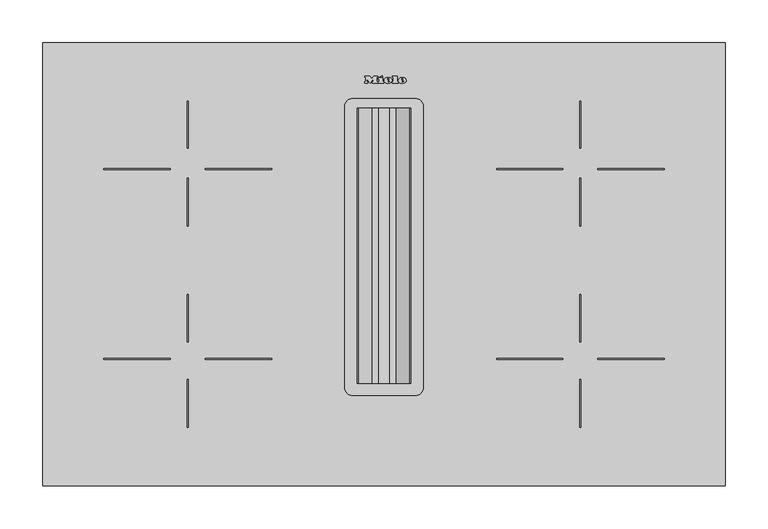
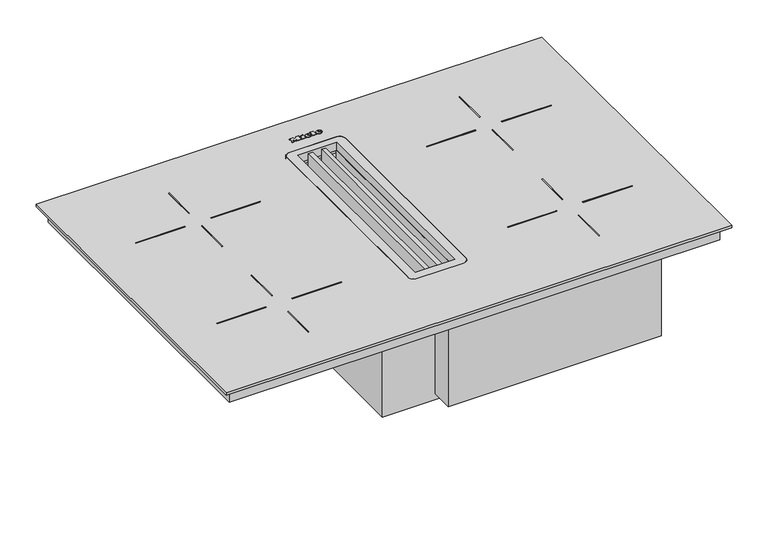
"""IFC4 building model written with IfcOpenShell, lengths in millimetres: proxy geometry, 12904850_BNI_KMDA7272-1FL : 26727275_BNI_12904850_KMDA7272-1FL."""

import ifcopenshell
import ifcopenshell.guid

model = None  # the IFC model being written
_history = None  # IfcOwnerHistory: only IFC2X3 demands one
_inside = {}  # id of a spatial element -> (the spatial element, [elements in it])
_under = {}  # id of a project, library or spatial element -> (it, [spatial elements below it])
_declared = {}  # id of a project -> (the project, [libraries it declares])
_typed = {}  # id of a type object -> (the type object, [elements of that type])
_made_of = {}  # id of a material, layer set ... -> (it, [elements and type objects made of it])


def new_model(schema):
    """Start an empty IFC model of exactly this schema.

    Asked for "IFC4X3", IfcOpenShell would pick the latest addendum, in which some entities
    have other attributes; the version numbers below select the first issue.
    IFC2X3 requires an IfcOwnerHistory on every rooted entity: one is made here for all.
    """
    global model, _history
    if schema == "IFC4X3":
        model = ifcopenshell.file(schema_version=(4, 3, 0, 0))
    else:
        model = ifcopenshell.file(schema=schema)
    _inside.clear()
    _under.clear()
    _declared.clear()
    _typed.clear()
    _made_of.clear()
    _history = None
    if model.schema == "IFC2X3":
        org = make("IfcOrganization", Name="unknown")
        user = make(
            "IfcPersonAndOrganization",
            ThePerson=make("IfcPerson", FamilyName="unknown"),
            TheOrganization=org,
        )
        app = make(
            "IfcApplication",
            ApplicationDeveloper=org,
            Version="unknown",
            ApplicationFullName="unknown",
            ApplicationIdentifier="unknown",
        )
        _history = make(
            "IfcOwnerHistory",
            OwningUser=user,
            OwningApplication=app,
            ChangeAction="ADDED",
            CreationDate=0,
        )
    return model


def make(cls, **values):
    """One entity of the class cls with the attributes given. An attribute that is None is left unset."""
    return model.create_entity(
        cls, **{name: value for name, value in values.items() if value is not None}
    )


def rooted(cls, **values):
    """An entity with a GlobalId (a new one), such as an element, a storey or a relation."""
    return make(cls, GlobalId=ifcopenshell.guid.new(), OwnerHistory=_history, **values)


def si_unit(unit_type, name, prefix=None):
    """IfcSIUnit, for example si_unit("LENGTHUNIT", "METRE", prefix="MILLI")."""
    return make("IfcSIUnit", UnitType=unit_type, Prefix=prefix, Name=name)


def assignment(units):
    """IfcUnitAssignment: the units of a project."""
    return None if units is None else make("IfcUnitAssignment", Units=units)


def point(xyz):
    """IfcCartesianPoint."""
    return None if xyz is None else make("IfcCartesianPoint", Coordinates=xyz)


def direction(xyz):
    """IfcDirection."""
    return None if xyz is None else make("IfcDirection", DirectionRatios=xyz)


def frame(location, z_axis=None, x_axis=None):
    """IfcAxis2Placement3D, a coordinate frame: its origin and axes. An axis left out is left unset."""
    return make(
        "IfcAxis2Placement3D",
        Location=point(location),
        Axis=direction(z_axis),
        RefDirection=direction(x_axis),
    )


def frame_2d(location, x_axis=None):
    """IfcAxis2Placement2D, a coordinate frame in the plane: its origin and x axis."""
    return make(
        "IfcAxis2Placement2D", Location=point(location), RefDirection=direction(x_axis)
    )


def origin():
    """The frame at (0, 0, 0) with its axes left unset."""
    return frame((0.0, 0.0, 0.0))


def origin_with_axes():
    """The frame at (0, 0, 0) with the z axis (0, 0, 1) and the x axis (1, 0, 0) written out."""
    return frame((0.0, 0.0, 0.0), z_axis=(0.0, 0.0, 1.0), x_axis=(1.0, 0.0, 0.0))


def place(relative_to, where):
    """IfcLocalPlacement: puts the frame where relative to a parent placement (None: the world)."""
    return make(
        "IfcLocalPlacement", PlacementRelTo=relative_to, RelativePlacement=where
    )


def context(
    kind, dimensions, precision=None, world=None, true_north=None, identifier=None
):
    """IfcGeometricRepresentationContext, for example the 3D "Model" context."""
    return make(
        "IfcGeometricRepresentationContext",
        ContextIdentifier=identifier,
        ContextType=kind,
        CoordinateSpaceDimension=dimensions,
        Precision=precision,
        WorldCoordinateSystem=world,
        TrueNorth=true_north,
    )


def project(units=None, contexts=None):
    """IfcProject with its units and contexts."""
    return rooted(
        "IfcProject",
        Name="project",
        RepresentationContexts=contexts,
        UnitsInContext=assignment(units),
    )


def spatial(cls, under=None, at=None, **own):
    """A site, building, storey or space (cls), placed at a placement, below another one or the project."""
    s = rooted(cls, ObjectPlacement=at, **own)
    if under is not None:
        _under.setdefault(under.id(), (under, []))[1].append(s)
    return s


def polyline(points):
    """IfcPolyline through the points."""
    return make("IfcPolyline", Points=[point(p) for p in points])


def circle_curve(where, radius):
    """IfcCircle in the frame where."""
    return make("IfcCircle", Position=where, Radius=radius)


def ellipse_curve(where, semi_axis1, semi_axis2):
    """IfcEllipse in the frame where."""
    return make(
        "IfcEllipse", Position=where, SemiAxis1=semi_axis1, SemiAxis2=semi_axis2
    )


def trimmed(basis, trim1, trim2, sense, master):
    """IfcTrimmedCurve: the piece of a basis curve between two trims."""
    return make(
        "IfcTrimmedCurve",
        BasisCurve=basis,
        Trim1=trim1,
        Trim2=trim2,
        SenseAgreement=sense,
        MasterRepresentation=master,
    )


def segment(curve, same_sense, transition):
    """IfcCompositeCurveSegment."""
    return make(
        "IfcCompositeCurveSegment",
        Transition=transition,
        SameSense=same_sense,
        ParentCurve=curve,
    )


def composite_curve(segments, self_intersect=None):
    """IfcCompositeCurve: segments joined end to end."""
    return make("IfcCompositeCurve", Segments=segments, SelfIntersect=self_intersect)


def outline(outer, holes=None, kind="AREA"):
    """IfcArbitraryClosedProfileDef: a profile drawn as a closed curve; with holes, ...WithVoids."""
    if holes is None:
        return make("IfcArbitraryClosedProfileDef", ProfileType=kind, OuterCurve=outer)
    return make(
        "IfcArbitraryProfileDefWithVoids",
        ProfileType=kind,
        OuterCurve=outer,
        InnerCurves=holes,
    )


def extrude(swept, where, along, depth):
    """IfcExtrudedAreaSolid: the profile swept, set in the frame where, extruded along a direction by depth."""
    return make(
        "IfcExtrudedAreaSolid",
        SweptArea=swept,
        Position=where,
        ExtrudedDirection=direction(along),
        Depth=depth,
    )


def faces_of(points, faces, orient=None, outer=None):
    """IfcFace entities. A face is a list of loops; a loop is a list of indices into points, from 0.

    orient and outer hold one flag for each loop. By default every Orientation is true, the
    first loop of a face is its IfcFaceOuterBound and the others are IfcFaceBound.
    """
    made = []
    for i, loops in enumerate(faces):
        bounds = []
        for j, loop in enumerate(loops):
            is_outer = j == 0 if outer is None else outer[i][j]
            bounds.append(
                make(
                    "IfcFaceOuterBound" if is_outer else "IfcFaceBound",
                    Bound=make("IfcPolyLoop", Polygon=[points[k] for k in loop]),
                    Orientation=True if orient is None else orient[i][j],
                )
            )
        made.append(make("IfcFace", Bounds=bounds))
    return made


def faceted_brep(points, faces, orient=None, outer=None, voids=None):
    """IfcFacetedBrep: a solid bounded by flat faces; with voids (closed shells), ...WithVoids."""
    shared = [point(p) for p in points]
    hull = make("IfcClosedShell", CfsFaces=faces_of(shared, faces, orient, outer))
    if voids is None:
        return make("IfcFacetedBrep", Outer=hull)
    return make(
        "IfcFacetedBrepWithVoids",
        Outer=hull,
        Voids=[
            make(cls, CfsFaces=faces_of(shared, fs, o, b)) for cls, fs, o, b in voids
        ],
    )


def shape(context_of_items, identifier, shape_type, items):
    """IfcShapeRepresentation: the items that make up one representation, for example the "Body"."""
    return make(
        "IfcShapeRepresentation",
        ContextOfItems=context_of_items,
        RepresentationIdentifier=identifier,
        RepresentationType=shape_type,
        Items=items,
    )


def source(mapping_origin, context_of_items, identifier, shape_type, items):
    """IfcRepresentationMap: a shape defined once, which mapped items show again and again."""
    return make(
        "IfcRepresentationMap",
        MappingOrigin=mapping_origin,
        MappedRepresentation=shape(context_of_items, identifier, shape_type, items),
    )


def transform(
    local_origin,
    x_axis=None,
    y_axis=None,
    z_axis=None,
    scale=None,
    scale2=None,
    scale3=None,
    uniform=True,
):
    """IfcCartesianTransformationOperator3D, or its non-uniform kind. x_axis, y_axis, z_axis: its Axis1, 2, 3."""
    if uniform:
        return make(
            "IfcCartesianTransformationOperator3D",
            Axis1=direction(x_axis),
            Axis2=direction(y_axis),
            LocalOrigin=point(local_origin),
            Scale=scale,
            Axis3=direction(z_axis),
        )
    return make(
        "IfcCartesianTransformationOperator3DnonUniform",
        Axis1=direction(x_axis),
        Axis2=direction(y_axis),
        LocalOrigin=point(local_origin),
        Scale=scale,
        Axis3=direction(z_axis),
        Scale2=scale2,
        Scale3=scale3,
    )


def mapped(mapping_source, mapping_target):
    """IfcMappedItem: shows the shape of a source again, moved by a transform."""
    return make(
        "IfcMappedItem", MappingSource=mapping_source, MappingTarget=mapping_target
    )


def made_of(thing, what):
    """Note that an element or type object is made of a material, layer set ...; save() writes the relation."""
    if what is not None:
        _made_of.setdefault(what.id(), (what, []))[1].append(thing)
    return thing


def element(
    cls,
    number,
    at=None,
    inside=None,
    cuts=None,
    type_object=None,
    material=None,
    context=None,
    identifier="Body",
    shape_type=None,
    held_by="IfcProductDefinitionShape",
    body=None,
    shapes=None,
    **own,
):
    """One element of the class cls, such as IfcWall. Its Tag is "e" and its number.

    at: its placement. inside: the storey or other place that contains it. cuts: it is an
    opening in that element (IfcRelVoidsElement). A single representation is given by context,
    identifier, shape_type and body (its items); several are given by shapes. held_by: the class
    of the entity that holds the representations. save() writes the other relations.
    """
    e = rooted(cls, Tag="e%d" % number, ObjectPlacement=at, **own)
    if body is not None:
        shapes = [shape(context, identifier, shape_type, body)]
    if shapes is not None:
        e.Representation = make(held_by, Representations=shapes)
    if inside is not None:
        _inside.setdefault(inside.id(), (inside, []))[1].append(e)
    if cuts is not None:
        rooted(
            "IfcRelVoidsElement", RelatingBuildingElement=cuts, RelatedOpeningElement=e
        )
    if type_object is not None:
        _typed.setdefault(type_object.id(), (type_object, []))[1].append(e)
    return made_of(e, material)


def aggregate(whole, parts):
    """IfcRelAggregates: a whole, such as a stair, and the parts it consists of."""
    return rooted("IfcRelAggregates", RelatingObject=whole, RelatedObjects=parts)


def save(model, path):
    """Write the relations noted so far, then the file.

    IfcRelAggregates (storeys below a building ...), IfcRelContainedInSpatialStructure (elements
    in a storey), IfcRelDefinesByType, IfcRelAssociatesMaterial and IfcRelDeclares: one each for
    every whole, place, type object, material and project.
    """
    for whole, parts in _under.values():
        aggregate(whole, parts)
    for where, things in _inside.values():
        rooted(
            "IfcRelContainedInSpatialStructure",
            RelatedElements=things,
            RelatingStructure=where,
        )
    for kind, things in _typed.values():
        rooted("IfcRelDefinesByType", RelatedObjects=things, RelatingType=kind)
    for what, things in _made_of.values():
        rooted("IfcRelAssociatesMaterial", RelatedObjects=things, RelatingMaterial=what)
    for by, libraries in _declared.values():
        rooted("IfcRelDeclares", RelatingContext=by, RelatedDefinitions=libraries)
    model.write(path)


def plane_surface(at):
    """IfcPlane: the flat surface through the origin of the frame at, square to its z axis."""
    return make("IfcPlane", Position=at)


def cylinder_surface(at, radius):
    """IfcCylindricalSurface: all points at the distance radius from the z axis of the frame at."""
    return make("IfcCylindricalSurface", Position=at, Radius=radius)


def revolved_surface(curve, axis_point, axis_direction):
    """IfcSurfaceOfRevolution: the curve turned about the line through axis_point along axis_direction."""
    return make(
        "IfcSurfaceOfRevolution",
        SweptCurve=make("IfcArbitraryOpenProfileDef", ProfileType="CURVE", Curve=curve),
        AxisPosition=make("IfcAxis1Placement", Location=point(axis_point), Axis=direction(axis_direction)),
    )


def extruded_surface(curve, direction_of_extrusion, depth):
    """IfcSurfaceOfLinearExtrusion: the curve pushed along a direction by depth."""
    return make(
        "IfcSurfaceOfLinearExtrusion",
        SweptCurve=make("IfcArbitraryOpenProfileDef", ProfileType="CURVE", Curve=curve),
        ExtrudedDirection=direction(direction_of_extrusion),
        Depth=depth,
    )


def advanced_brep(points, edges, surfaces, faces):
    """IfcAdvancedBrep: a solid bounded by faces that lie on surfaces and meet in shared edges.

    An edge is (start, end): straight between two places in points (the first is 0);
    or (start, end, curve); or (start, end, curve, False) where it runs against its curve.
    A face is (place in surfaces, loops), or (place, loops, False) where it looks against
    its surface's normal. A loop lists edges by number (the first is 1), with a minus sign
    where the edge is run from its end to its start. The first loop is the outer one.
    """
    corners = [point(p) for p in points]
    vertices = [make("IfcVertexPoint", VertexGeometry=c) for c in corners]
    made = []
    for start, end, *more in edges:
        made.append(
            make(
                "IfcEdgeCurve",
                EdgeStart=vertices[start],
                EdgeEnd=vertices[end],
                EdgeGeometry=more[0] if more else make("IfcPolyline", Points=[corners[start], corners[end]]),
                SameSense=more[1] if len(more) > 1 else True,
            )
        )
    hull = []
    for where, loops, *sense in faces:
        bounds = []
        for j, loop in enumerate(loops):
            ring = [make("IfcOrientedEdge", EdgeElement=made[abs(k) - 1], Orientation=k > 0) for k in loop]
            bounds.append(
                make(
                    "IfcFaceOuterBound" if j == 0 else "IfcFaceBound",
                    Bound=make("IfcEdgeLoop", EdgeList=ring),
                    Orientation=True,
                )
            )
        hull.append(make("IfcAdvancedFace", Bounds=bounds, FaceSurface=surfaces[where], SameSense=sense[0] if sense else True))
    return make("IfcAdvancedBrep", Outer=make("IfcClosedShell", CfsFaces=hull))


def specialty_equipment_1488fc75(model_context):
    return source(origin(), model_context, "Body", "SolidModel", [
        advanced_brep(
        [(20.8243124, 474.5406203, 5.0), (20.8243124, 475.3486203, 5.0), (26.1763124, 475.3486203, 5.0), (16.8643124, 475.3486203, 5.0), (19.0643124, 472.6446203, 5.0), (26.0403124, 474.5406203, 5.0), (23.6243124, 474.5406203, 5.0), (21.7203124, 473.6446203, 5.0), (20.8243124, 476.3726203, 5.0), (20.8243124, 477.2446203, 5.0), (22.1923124, 477.2446203, 5.0), (22.1923124, 476.3726203, 5.0), (20.8243124, 474.5406203, 4.0), (21.7203124, 473.6446203, 4.0), (23.6243124, 474.5406203, 4.0), (26.0403124, 474.5406203, 4.0), (19.0643124, 472.6446203, 4.0), (16.8643124, 475.3486203, 4.0), (26.1763124, 475.3486203, 4.0), (20.8243124, 475.3486203, 4.0), (20.8243124, 476.3726203, 4.0), (22.1923124, 476.3726203, 4.0), (22.1923124, 477.2446203, 4.0), (20.8243124, 477.2446203, 4.0)],
        [
            (0, 1),
            (1, 2),
            (2, 3, ellipse_curve(frame((21.5203124, 475.3486203, 5.0), z_axis=(0.0, 0.0, 1.0), x_axis=(-1.0, 0.0, 0.0)), 4.656, 3.848)),
            (3, 4, circle_curve(frame((19.960356, 475.6206203, 5.0), z_axis=(0.0, 0.0, 1.0), x_axis=(0.0, -1.0, 0.0)), 3.1079688)),
            (4, 5, circle_curve(frame((21.4271059, 477.7326203, 5.0), z_axis=(0.0, 0.0, 1.0), x_axis=(0.0, -1.0, 0.0)), 5.6098607)),
            (5, 6),
            (6, 7, circle_curve(frame((22.1113712, 475.2846203, 5.0), z_axis=(0.0, 0.0, -1.0), x_axis=(0.0, -1.0, 0.0)), 1.6859795)),
            (7, 0, circle_curve(frame((21.7203124, 474.5406203, 5.0), z_axis=(0.0, 0.0, -1.0), x_axis=(0.0, -1.0, 0.0)), 0.896)),
            (8, 9),
            (9, 10, circle_curve(frame((21.5083124, 477.2446203, 5.0), z_axis=(0.0, 0.0, -1.0), x_axis=(0.0, -1.0, 0.0)), 0.684)),
            (10, 11),
            (11, 8),
            (12, 13, circle_curve(frame((21.7203124, 474.5406203, 4.0), z_axis=(0.0, 0.0, 1.0), x_axis=(0.0, -1.0, 0.0)), 0.896)),
            (13, 14, circle_curve(frame((22.1113712, 475.2846203, 4.0), z_axis=(0.0, 0.0, 1.0), x_axis=(0.0, -1.0, 0.0)), 1.6859795)),
            (14, 15),
            (15, 16, circle_curve(frame((21.4271059, 477.7326203, 4.0), z_axis=(0.0, 0.0, -1.0), x_axis=(0.0, -1.0, 0.0)), 5.6098607)),
            (16, 17, circle_curve(frame((19.960356, 475.6206203, 4.0), z_axis=(0.0, 0.0, -1.0), x_axis=(0.0, -1.0, 0.0)), 3.1079688)),
            (17, 18, ellipse_curve(frame((21.5203124, 475.3486203, 4.0), z_axis=(0.0, 0.0, -1.0), x_axis=(-1.0, 0.0, 0.0)), 4.656, 3.848)),
            (18, 19),
            (19, 12),
            (20, 21),
            (21, 22),
            (22, 23, circle_curve(frame((21.5083124, 477.2446203, 4.0), z_axis=(0.0, 0.0, 1.0), x_axis=(0.0, -1.0, 0.0)), 0.684)),
            (23, 20),
            (0, 12),
            (19, 1),
            (18, 2),
            (5, 15),
            (14, 6),
            (17, 3),
            (13, 7),
            (16, 4),
            (8, 20),
            (23, 9),
            (22, 10),
            (21, 11),
        ],
        [
            plane_surface(frame((20.8243124, 475.3486203, 5.0), z_axis=(0.0, 0.0, 1.0), x_axis=(0.0, 1.0, 0.0))),
            plane_surface(frame((20.8243124, 475.3486203, 4.0), z_axis=(0.0, 0.0, -1.0), x_axis=(0.0, -1.0, 0.0))),
            plane_surface(frame((20.8243124, 474.5406203, 5.0), z_axis=(1.0, 0.0, 0.0), x_axis=(0.0, 0.0, -1.0))),
            plane_surface(frame((20.8243124, 475.3486203, 5.0), z_axis=(0.0, -1.0, 0.0), x_axis=(0.0, 0.0, -1.0))),
            plane_surface(frame((26.0403124, 474.5406203, 5.0), z_axis=(0.0, 1.0, 0.0), x_axis=(0.0, 0.0, -1.0))),
            extruded_surface(trimmed(ellipse_curve(frame((21.5203124, 475.3486203, 3.0), z_axis=(0.0, 0.0, 1.0), x_axis=(-1.0, 0.0, 0.0)), 4.656, 3.848), [point((26.1763124, 475.3486203, 3.0))], [point((16.8643124, 475.3486203, 3.0))], True, "CARTESIAN"), (0.0, 0.0, 1.0), 1.0),
            revolved_surface(polyline([(22.1113712, 473.5986408, 4.0), (22.1113712, 473.5986408, 5.0)]), (22.1113712, 475.2846203, 4.0), (0.0, 0.0, -1.0)),
            revolved_surface(polyline([(21.7203124, 473.6446203, 4.0), (21.7203124, 473.6446203, 5.0)]), (21.7203124, 474.5406203, 4.0), (0.0, 0.0, -1.0)),
            cylinder_surface(frame((19.960356, 475.6206203, 4.0), z_axis=(0.0, 0.0, 1.0), x_axis=(0.0, -1.0, 0.0)), 3.1079688),
            cylinder_surface(frame((21.4271059, 477.7326203, 4.0), z_axis=(0.0, 0.0, 1.0), x_axis=(0.0, -1.0, 0.0)), 5.6098607),
            plane_surface(frame((20.8243124, 476.3726203, 5.0), z_axis=(1.0, 0.0, 0.0), x_axis=(0.0, 0.0, -1.0))),
            revolved_surface(polyline([(21.5083124, 476.5606203, 4.0), (21.5083124, 476.5606203, 5.0)]), (21.5083124, 477.2446203, 4.0), (0.0, 0.0, -1.0)),
            plane_surface(frame((22.1923124, 477.2446203, 5.0), z_axis=(-1.0, 0.0, 0.0), x_axis=(0.0, 0.0, -1.0))),
            plane_surface(frame((22.1923124, 476.3726203, 5.0), z_axis=(0.0, 1.0, 0.0), x_axis=(0.0, 0.0, -1.0))),
        ],
        [
            (0, [[1, 2, 3, 4, 5, 6, 7, 8], [9, 10, 11, 12]]),
            (1, [[13, 14, 15, 16, 17, 18, 19, 20], [21, 22, 23, 24]]),
            (2, [[-1, 25, -20, 26]]),
            (3, [[-2, -26, -19, 27]]),
            (4, [[-6, 28, -15, 29]]),
            (5, [[-3, -27, -18, 30]]),
            (6, [[-7, -29, -14, 31]]),
            (7, [[-8, -31, -13, -25]]),
            (8, [[-4, -30, -17, 32]]),
            (9, [[-5, -32, -16, -28]]),
            (10, [[-9, 33, -24, 34]]),
            (11, [[-10, -34, -23, 35]]),
            (12, [[-11, -35, -22, 36]]),
            (13, [[-12, -36, -21, -33]]),
        ],
    ),
        advanced_brep(
        [(4.1283124, 474.5406203, 5.0), (4.1283124, 475.3486203, 5.0), (9.4803124, 475.3486203, 5.0), (0.1683124, 475.3486203, 5.0), (2.3683124, 472.6446203, 5.0), (9.3443124, 474.5406203, 5.0), (6.9283124, 474.5406203, 5.0), (5.0243124, 473.6446203, 5.0), (4.1283124, 476.3726203, 5.0), (4.1283124, 477.2446203, 5.0), (5.4963124, 477.2446203, 5.0), (5.4963124, 476.3726203, 5.0), (4.1283124, 474.5406203, 4.0), (5.0243124, 473.6446203, 4.0), (6.9283124, 474.5406203, 4.0), (9.3443124, 474.5406203, 4.0), (2.3683124, 472.6446203, 4.0), (0.1683124, 475.3486203, 4.0), (9.4803124, 475.3486203, 4.0), (4.1283124, 475.3486203, 4.0), (4.1283124, 476.3726203, 4.0), (5.4963124, 476.3726203, 4.0), (5.4963124, 477.2446203, 4.0), (4.1283124, 477.2446203, 4.0)],
        [
            (0, 1),
            (1, 2),
            (2, 3, ellipse_curve(frame((4.8243124, 475.3486203, 5.0), z_axis=(0.0, 0.0, 1.0), x_axis=(-1.0, 0.0, 0.0)), 4.656, 3.848)),
            (3, 4, circle_curve(frame((3.264356, 475.6206203, 5.0), z_axis=(0.0, 0.0, 1.0), x_axis=(0.0, -1.0, 0.0)), 3.1079688)),
            (4, 5, circle_curve(frame((4.7311059, 477.7326203, 5.0), z_axis=(0.0, 0.0, 1.0), x_axis=(0.0, -1.0, 0.0)), 5.6098607)),
            (5, 6),
            (6, 7, circle_curve(frame((5.4153712, 475.2846203, 5.0), z_axis=(0.0, 0.0, -1.0), x_axis=(0.0, -1.0, 0.0)), 1.6859795)),
            (7, 0, circle_curve(frame((5.0243124, 474.5406203, 5.0), z_axis=(0.0, 0.0, -1.0), x_axis=(0.0, -1.0, 0.0)), 0.896)),
            (8, 9),
            (9, 10, circle_curve(frame((4.8123124, 477.2446203, 5.0), z_axis=(0.0, 0.0, -1.0), x_axis=(0.0, -1.0, 0.0)), 0.684)),
            (10, 11),
            (11, 8),
            (12, 13, circle_curve(frame((5.0243124, 474.5406203, 4.0), z_axis=(0.0, 0.0, 1.0), x_axis=(0.0, -1.0, 0.0)), 0.896)),
            (13, 14, circle_curve(frame((5.4153712, 475.2846203, 4.0), z_axis=(0.0, 0.0, 1.0), x_axis=(0.0, -1.0, 0.0)), 1.6859795)),
            (14, 15),
            (15, 16, circle_curve(frame((4.7311059, 477.7326203, 4.0), z_axis=(0.0, 0.0, -1.0), x_axis=(0.0, -1.0, 0.0)), 5.6098607)),
            (16, 17, circle_curve(frame((3.264356, 475.6206203, 4.0), z_axis=(0.0, 0.0, -1.0), x_axis=(0.0, -1.0, 0.0)), 3.1079688)),
            (17, 18, ellipse_curve(frame((4.8243124, 475.3486203, 4.0), z_axis=(0.0, 0.0, -1.0), x_axis=(-1.0, 0.0, 0.0)), 4.656, 3.848)),
            (18, 19),
            (19, 12),
            (20, 21),
            (21, 22),
            (22, 23, circle_curve(frame((4.8123124, 477.2446203, 4.0), z_axis=(0.0, 0.0, 1.0), x_axis=(0.0, -1.0, 0.0)), 0.684)),
            (23, 20),
            (0, 12),
            (19, 1),
            (18, 2),
            (5, 15),
            (14, 6),
            (17, 3),
            (13, 7),
            (16, 4),
            (8, 20),
            (23, 9),
            (22, 10),
            (21, 11),
        ],
        [
            plane_surface(frame((4.1283124, 475.3486203, 5.0), z_axis=(0.0, 0.0, 1.0), x_axis=(0.0, 1.0, 0.0))),
            plane_surface(frame((4.1283124, 475.3486203, 4.0), z_axis=(0.0, 0.0, -1.0), x_axis=(0.0, -1.0, 0.0))),
            plane_surface(frame((4.1283124, 474.5406203, 5.0), z_axis=(1.0, 0.0, 0.0), x_axis=(0.0, 0.0, -1.0))),
            plane_surface(frame((4.1283124, 475.3486203, 5.0), z_axis=(0.0, -1.0, 0.0), x_axis=(0.0, 0.0, -1.0))),
            plane_surface(frame((9.3443124, 474.5406203, 5.0), z_axis=(0.0, 1.0, 0.0), x_axis=(0.0, 0.0, -1.0))),
            extruded_surface(trimmed(ellipse_curve(frame((4.8243124, 475.3486203, 3.0), z_axis=(0.0, 0.0, 1.0), x_axis=(-1.0, 0.0, 0.0)), 4.656, 3.848), [point((9.4803124, 475.3486203, 3.0))], [point((0.1683124, 475.3486203, 3.0))], True, "CARTESIAN"), (0.0, 0.0, 1.0), 1.0),
            revolved_surface(polyline([(5.4153712, 473.5986408, 4.0), (5.4153712, 473.5986408, 5.0)]), (5.4153712, 475.2846203, 4.0), (0.0, 0.0, -1.0)),
            revolved_surface(polyline([(5.0243124, 473.6446203, 4.0), (5.0243124, 473.6446203, 5.0)]), (5.0243124, 474.5406203, 4.0), (0.0, 0.0, -1.0)),
            cylinder_surface(frame((3.264356, 475.6206203, 4.0), z_axis=(0.0, 0.0, 1.0), x_axis=(0.0, -1.0, 0.0)), 3.1079688),
            cylinder_surface(frame((4.7311059, 477.7326203, 4.0), z_axis=(0.0, 0.0, 1.0), x_axis=(0.0, -1.0, 0.0)), 5.6098607),
            plane_surface(frame((4.1283124, 476.3726203, 5.0), z_axis=(1.0, 0.0, 0.0), x_axis=(0.0, 0.0, -1.0))),
            revolved_surface(polyline([(4.8123124, 476.5606203, 4.0), (4.8123124, 476.5606203, 5.0)]), (4.8123124, 477.2446203, 4.0), (0.0, 0.0, -1.0)),
            plane_surface(frame((5.4963124, 477.2446203, 5.0), z_axis=(-1.0, 0.0, 0.0), x_axis=(0.0, 0.0, -1.0))),
            plane_surface(frame((5.4963124, 476.3726203, 5.0), z_axis=(0.0, 1.0, 0.0), x_axis=(0.0, 0.0, -1.0))),
        ],
        [
            (0, [[1, 2, 3, 4, 5, 6, 7, 8], [9, 10, 11, 12]]),
            (1, [[13, 14, 15, 16, 17, 18, 19, 20], [21, 22, 23, 24]]),
            (2, [[-1, 25, -20, 26]]),
            (3, [[-2, -26, -19, 27]]),
            (4, [[-6, 28, -15, 29]]),
            (5, [[-3, -27, -18, 30]]),
            (6, [[-7, -29, -14, 31]]),
            (7, [[-8, -31, -13, -25]]),
            (8, [[-4, -30, -17, 32]]),
            (9, [[-5, -32, -16, -28]]),
            (10, [[-9, 33, -24, 34]]),
            (11, [[-10, -34, -23, 35]]),
            (12, [[-11, -35, -22, 36]]),
            (13, [[-12, -36, -21, -33]]),
        ],
    ),
        extrude(outline(polyline([(-4.6156876, 480.1726203), (-1.8956876, 481.4366203), (-1.2956876, 480.1406203), (-4.0076876, 478.8766203), (-4.6156876, 480.1726203)])), frame((0.0, 0.0, 4.0), z_axis=(0.0, 0.0, 1.0), x_axis=(1.0, 0.0, 0.0)), (0.0, 0.0, 1.0), 1.0),
        extrude(outline(polyline([(-6.5916876, 478.7006203), (-1.2076876, 478.7006203), (-1.2076876, 473.9886203), (-0.2796876, 473.9886203), (-0.2796876, 472.6446203), (-6.5916876, 472.6446203), (-6.5916876, 473.9886203), (-5.6396876, 473.9886203), (-5.6396876, 477.2686203), (-6.5916876, 477.2686203), (-6.5916876, 478.7006203)])), frame((0.0, 0.0, 4.0), z_axis=(0.0, 0.0, 1.0), x_axis=(1.0, 0.0, 0.0)), (0.0, 0.0, 1.0), 1.0),
        extrude(outline(polyline([(9.9283124, 479.3406203), (9.9283124, 480.6446203), (15.4323124, 480.6446203), (15.4323124, 473.9886203), (16.4163124, 473.9886203), (16.4163124, 472.6446203), (9.9283124, 472.6446203), (9.9283124, 473.9886203), (10.8883124, 473.9886203), (10.8883124, 479.3406203), (9.9283124, 479.3406203)])), frame((0.0, 0.0, 4.0), z_axis=(0.0, 0.0, 1.0), x_axis=(1.0, 0.0, 0.0)), (0.0, 0.0, 1.0), 1.0),
        extrude(outline(polyline([(-22.5356876, 479.3406203), (-22.5356876, 480.6446203), (-16.9596876, 480.6446203), (-14.6156876, 477.6446203), (-12.2796876, 480.6446203), (-7.4076876, 480.6446203), (-7.4076876, 479.3406203), (-8.4236876, 479.3406203), (-8.4236876, 473.9886203), (-7.4076876, 473.9886203), (-7.4076876, 472.6446203), (-13.7916876, 472.6446203), (-13.7916876, 473.9886203), (-12.8076876, 473.9886203), (-12.8076876, 477.4598426), (-16.3996876, 472.6446203), (-19.9756876, 477.3917451), (-19.9756876, 473.9886203), (-19.0156876, 473.9886203), (-19.0156876, 472.6446203), (-22.5356876, 472.6446203), (-22.5356876, 473.9886203), (-21.5676876, 473.9886203), (-21.5676876, 479.3406203), (-22.5356876, 479.3406203)])), frame((0.0, 0.0, 4.0), z_axis=(0.0, 0.0, 1.0), x_axis=(1.0, 0.0, 0.0)), (0.0, 0.0, 1.0), 1.0),
        faceted_brep([(-71.7186221, 460.5236466, -23.0), (-364.8972461, 460.5236466, -23.0), (-364.8972461, 59.427471, -23.0), (-71.7186221, 59.427471, -23.0), (-71.7186221, 59.427471, -49.8134964), (-364.8972461, 59.427471, -49.8134964), (-364.8972461, 460.5236466, -49.8134964), (-86.144412, 460.5236466, -49.8134964), (-86.144412, 352.5236466, -49.8134964), (-71.7186221, 352.5236466, -49.8134964), (-71.7186221, 460.5236466, -31.728133), (-86.144412, 460.5236466, -31.728133), (-71.7186221, 352.5236466, -31.728133), (-86.144412, 352.5236466, -31.728133)], [[[0, 1, 2, 3]], [[4, 5, 6, 7, 8, 9]], [[1, 0, 10, 11, 7, 6]], [[2, 1, 6, 5]], [[3, 2, 5, 4]], [[0, 3, 4, 9, 12, 10]], [[8, 13, 12, 9]], [[12, 13, 11, 10]], [[13, 8, 7, 11]]]),
        extrude(outline(polyline([(388.0, 508.0), (388.0, 12.0), (-388.0, 12.0), (-388.0, 508.0), (388.0, 508.0)]), holes=[composite_curve([segment(trimmed(circle_curve(frame_2d((36.5, 115.5)), 9.5), [point((36.5, 106.0))], [point((46.0, 115.5))], True, "CARTESIAN"), True, "CONTINUOUS"), segment(polyline([(46.0, 115.5), (46.0, 445.0)]), True, "CONTINUOUS"), segment(trimmed(circle_curve(frame_2d((36.5, 445.0)), 9.5), [point((46.0, 445.0))], [point((36.5, 454.5))], True, "CARTESIAN"), True, "CONTINUOUS"), segment(polyline([(36.5, 454.5), (-36.5395335, 454.5)]), True, "CONTINUOUS"), segment(trimmed(circle_curve(frame_2d((-36.5395335, 445.0395335)), 9.4604665), [point((-36.5395335, 454.5))], [point((-46.0, 445.0395335))], True, "CARTESIAN"), True, "CONTINUOUS"), segment(polyline([(-46.0, 445.0395335), (-46.0, 115.5)]), True, "CONTINUOUS"), segment(trimmed(circle_curve(frame_2d((-36.5, 115.5)), 9.5), [point((-46.0, 115.5))], [point((-36.5, 106.0))], True, "CARTESIAN"), True, "CONTINUOUS"), segment(polyline([(-36.5, 106.0), (36.5, 106.0)]), True, "CONTINUOUS")], self_intersect=False)]), frame((0.0, 0.0, -23.0), z_axis=(0.0, 0.0, 1.0), x_axis=(1.0, 0.0, 0.0)), (0.0, 0.0, 1.0), 23.0),
        extrude(outline(polyline([(400.0, 520.0), (400.0, 0.0), (-400.0, 0.0), (-400.0, 520.0), (400.0, 520.0)]), holes=[composite_curve([segment(polyline([(36.5, 454.5), (-36.5, 454.5)]), True, "CONTINUOUS"), segment(trimmed(circle_curve(frame_2d((-36.5, 445.0)), 9.5), [point((-36.5, 454.5))], [point((-46.0, 445.0))], True, "CARTESIAN"), True, "CONTINUOUS"), segment(polyline([(-46.0, 445.0), (-46.0, 115.5)]), True, "CONTINUOUS"), segment(trimmed(circle_curve(frame_2d((-36.5, 115.5)), 9.5), [point((-46.0, 115.5))], [point((-36.5, 106.0))], True, "CARTESIAN"), True, "CONTINUOUS"), segment(polyline([(-36.5, 106.0), (36.5, 106.0)]), True, "CONTINUOUS"), segment(trimmed(circle_curve(frame_2d((36.5, 115.5)), 9.5), [point((36.5, 106.0))], [point((46.0, 115.5))], True, "CARTESIAN"), True, "CONTINUOUS"), segment(polyline([(46.0, 115.5), (46.0, 445.0)]), True, "CONTINUOUS"), segment(trimmed(circle_curve(frame_2d((36.5, 445.0)), 9.5), [point((46.0, 445.0))], [point((36.5, 454.5))], True, "CARTESIAN"), True, "CONTINUOUS")], self_intersect=False)]), origin_with_axes(), (0.0, 0.0, 1.0), 4.0),
        extrude(outline(polyline([(229.5, 361.0), (230.5, 361.0), (230.5, 305.0), (229.5, 305.0), (229.5, 361.0)])), frame((0.0, 0.0, 4.0), z_axis=(0.0, 0.0, 1.0), x_axis=(1.0, 0.0, 0.0)), (0.0, 0.0, 1.0), 1.0),
        extrude(outline(polyline([(230.5, 168.6409309), (229.5, 168.6409309), (229.5, 224.6409309), (230.5, 224.6409309), (230.5, 168.6409309)])), frame((0.0, 0.0, 4.0), z_axis=(0.0, 0.0, 1.0), x_axis=(1.0, 0.0, 0.0)), (0.0, 0.0, 1.0), 1.0),
        extrude(outline(polyline([(-229.5, 361.0), (-229.5, 305.0), (-230.5, 305.0), (-230.5, 361.0), (-229.5, 361.0)])), frame((0.0, 0.0, 4.0), z_axis=(0.0, 0.0, 1.0), x_axis=(1.0, 0.0, 0.0)), (0.0, 0.0, 1.0), 1.0),
        extrude(outline(polyline([(-230.5, 168.6409309), (-230.5, 224.6409309), (-229.5, 224.6409309), (-229.5, 168.6409309), (-230.5, 168.6409309)])), frame((0.0, 0.0, 4.0), z_axis=(0.0, 0.0, 1.0), x_axis=(1.0, 0.0, 0.0)), (0.0, 0.0, 1.0), 1.0),
        extrude(outline(polyline([(-45.5823584, -70.2509053), (-35.5367274, -70.2509053), (-35.5367274, -77.4712026), (-36.7924312, -77.4712026), (-36.7924312, -71.5066091), (-39.7747279, -71.5066091), (-39.7747279, -77.1572766), (-41.0304318, -77.1572766), (-41.0304318, -71.5066091), (-44.3266545, -71.5066091), (-44.3266545, -77.6281655), (-45.5823584, -77.6281655), (-45.5823584, -70.2509053)])), frame((0.0, 405.5236466, 0.0), z_axis=(0.0, 1.0, 0.0), x_axis=(0.0, 0.0, 1.0)), (0.0, 0.0, 1.0), 1.0),
        extrude(outline(polyline([(-45.5823584, -79.5117214), (-35.5367274, -79.5117214), (-35.5367274, -80.7674252), (-44.3266545, -80.7674252), (-44.3266545, -85.7902407), (-45.5823584, -85.7902407), (-45.5823584, -79.5117214)])), frame((0.0, 405.5236466, 0.0), z_axis=(0.0, 1.0, 0.0), x_axis=(0.0, 0.0, 1.0)), (0.0, 0.0, 1.0), 1.0),
        advanced_brep(
        [(-86.144412, 370.5236466, -40.8134964), (-86.144412, 380.5236466, -40.8134964), (-71.144412, 370.5236466, -40.8134964), (-81.144412, 380.5236466, -40.8134964), (-71.144412, 405.5236466, -40.8134964), (-81.144412, 405.5236466, -40.8134964)],
        [
            (0, 1, circle_curve(frame((-86.144412, 375.5236466, -40.8134964), z_axis=(-1.0, 0.0, 0.0), x_axis=(0.0, 1.0, 0.0)), 5.0)),
            (1, 0, circle_curve(frame((-86.144412, 375.5236466, -40.8134964), z_axis=(-1.0, 0.0, 0.0), x_axis=(0.0, 1.0, 0.0)), 5.0)),
            (0, 2),
            (2, 3, ellipse_curve(frame((-76.144412, 375.5236466, -40.8134964), z_axis=(-0.7071067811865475, -0.7071067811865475, 0.0), x_axis=(-0.7071067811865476, 0.7071067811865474, 0.0)), 7.0710678, 5.0)),
            (3, 1),
            (3, 2, ellipse_curve(frame((-76.144412, 375.5236466, -40.8134964), z_axis=(-0.7071067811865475, -0.7071067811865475, 0.0), x_axis=(-0.7071067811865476, 0.7071067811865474, 0.0)), 7.0710678, 5.0)),
            (4, 5, circle_curve(frame((-76.144412, 405.5236466, -40.8134964), z_axis=(0.0, 1.0, 0.0), x_axis=(-1.0, 0.0, 0.0)), 5.0)),
            (5, 4, circle_curve(frame((-76.144412, 405.5236466, -40.8134964), z_axis=(0.0, 1.0, 0.0), x_axis=(-1.0, 0.0, 0.0)), 5.0)),
            (2, 4),
            (5, 3),
        ],
        [
            plane_surface(frame((-86.144412, 375.5236466, 0.0), z_axis=(-1.0, 0.0, 0.0), x_axis=(0.0, 0.0, 1.0))),
            cylinder_surface(frame((-86.144412, 375.5236466, -40.8134964), z_axis=(-1.0, 0.0, 0.0), x_axis=(0.0, 1.0, 0.0)), 5.0),
            plane_surface(frame((-76.144412, 405.5236466, 0.0), z_axis=(0.0, 1.0, 0.0), x_axis=(0.0, 0.0, 1.0))),
            cylinder_surface(frame((-76.144412, 375.5236466, -40.8134964), z_axis=(0.0, -1.0, 0.0), x_axis=(-1.0, 0.0, 0.0)), 5.0),
        ],
        [
            (0, [[1, 2]]),
            (1, [[-1, 3, 4, 5]]),
            (1, [[-2, -5, 6, -3]]),
            (2, [[7, 8]]),
            (3, [[-4, 9, -8, 10]]),
            (3, [[-6, -10, -7, -9]]),
        ],
    ),
        extrude(outline(polyline([(-250.5, 372.0), (-250.5, 371.0), (-328.5, 371.0), (-328.5, 372.0), (-250.5, 372.0)])), frame((0.0, 0.0, 4.0), z_axis=(0.0, 0.0, 1.0), x_axis=(1.0, 0.0, 0.0)), (0.0, 0.0, 1.0), 1.0),
        extrude(outline(polyline([(-131.5, 372.0), (-131.5, 371.0), (-209.5, 371.0), (-209.5, 372.0), (-131.5, 372.0)])), frame((0.0, 0.0, 4.0), z_axis=(0.0, 0.0, 1.0), x_axis=(1.0, 0.0, 0.0)), (0.0, 0.0, 1.0), 1.0),
        extrude(outline(polyline([(-250.5, 148.7), (-328.4422621, 148.7), (-328.4422621, 149.7), (-250.5, 149.7), (-250.5, 148.7)])), frame((0.0, 0.0, 4.0), z_axis=(0.0, 0.0, 1.0), x_axis=(1.0, 0.0, 0.0)), (0.0, 0.0, 1.0), 1.0),
        extrude(outline(polyline([(-131.5, 149.7), (-131.5, 148.7), (-209.5, 148.7), (-209.5, 149.7), (-131.5, 149.7)])), frame((0.0, 0.0, 4.0), z_axis=(0.0, 0.0, 1.0), x_axis=(1.0, 0.0, 0.0)), (0.0, 0.0, 1.0), 1.0),
        extrude(outline(polyline([(250.5, 372.0), (328.5, 372.0), (328.5, 371.0), (250.5, 371.0), (250.5, 372.0)])), frame((0.0, 0.0, 4.0), z_axis=(0.0, 0.0, 1.0), x_axis=(1.0, 0.0, 0.0)), (0.0, 0.0, 1.0), 1.0),
        extrude(outline(polyline([(132.0, 372.0), (209.5, 372.0), (209.5, 371.0), (132.0, 371.0), (132.0, 372.0)])), frame((0.0, 0.0, 4.0), z_axis=(0.0, 0.0, 1.0), x_axis=(1.0, 0.0, 0.0)), (0.0, 0.0, 1.0), 1.0),
        extrude(outline(polyline([(-230.5, 68.5), (-230.5, 125.0), (-229.5, 125.0), (-229.5, 68.5), (-230.5, 68.5)])), frame((0.0, 0.0, 4.0), z_axis=(0.0, 0.0, 1.0), x_axis=(1.0, 0.0, 0.0)), (0.0, 0.0, 1.0), 1.0),
        extrude(outline(polyline([(230.5, 69.0), (229.5, 69.0), (229.5, 125.0), (230.5, 125.0), (230.5, 69.0)])), frame((0.0, 0.0, 4.0), z_axis=(0.0, 0.0, 1.0), x_axis=(1.0, 0.0, 0.0)), (0.0, 0.0, 1.0), 1.0),
        extrude(outline(polyline([(230.5, 451.5), (230.5, 396.0), (229.5, 396.0), (229.5, 451.5), (230.5, 451.5)])), frame((0.0, 0.0, 4.0), z_axis=(0.0, 0.0, 1.0), x_axis=(1.0, 0.0, 0.0)), (0.0, 0.0, 1.0), 1.0),
        extrude(outline(polyline([(-230.5, 451.5), (-229.5, 451.5), (-229.5, 396.0), (-230.5, 396.0), (-230.5, 451.5)])), frame((0.0, 0.0, 4.0), z_axis=(0.0, 0.0, 1.0), x_axis=(1.0, 0.0, 0.0)), (0.0, 0.0, 1.0), 1.0),
        extrude(outline(polyline([(250.5, 148.7), (250.5, 149.7), (328.5, 149.7), (328.5, 148.7), (250.5, 148.7)])), frame((0.0, 0.0, 4.0), z_axis=(0.0, 0.0, 1.0), x_axis=(1.0, 0.0, 0.0)), (0.0, 0.0, 1.0), 1.0),
        extrude(outline(polyline([(132.0, 148.7), (132.0, 149.7), (209.5, 149.7), (209.5, 148.7), (132.0, 148.7)])), frame((0.0, 0.0, 4.0), z_axis=(0.0, 0.0, 1.0), x_axis=(1.0, 0.0, 0.0)), (0.0, 0.0, 1.0), 1.0),
        extrude(outline(polyline([(14.0, 120.177901), (7.0, 120.177901), (7.0, 443.3010247), (14.0, 443.3010247), (14.0, 120.177901)])), frame((0.0, 0.0, -30.0), z_axis=(0.0, 0.0, 1.0), x_axis=(1.0, 0.0, 0.0)), (0.0, 0.0, 1.0), 30.0),
        extrude(outline(polyline([(-7.0, 120.177901), (-14.0, 120.177901), (-14.0, 443.3010247), (-7.0, 443.3010247), (-7.0, 120.177901)])), frame((0.0, 0.0, -30.0), z_axis=(0.0, 0.0, 1.0), x_axis=(1.0, 0.0, 0.0)), (0.0, 0.0, 1.0), 30.0),
        extrude(outline(polyline([(-150.3933796, 8.7812172), (-23.0, 31.0806576), (-9.6002538, 31.0806576), (-9.6002538, 30.0806576), (-22.9176, 30.0806576), (-149.3933796, 7.9334714), (-149.3933796, -10.4294884), (-23.1226136, -30.0513858), (-9.6002538, -30.0513858), (-9.6002538, -31.0802193), (-23.0, -31.0802193), (-150.3933796, -11.2930358), (-150.3933796, 8.7812172)])), frame((0.0, 120.177901, 0.0), z_axis=(0.0, 1.0, 0.0), x_axis=(0.0, 0.0, 1.0)), (0.0, 0.0, 1.0), 323.1231238),
        advanced_brep(
        [(65.0, 90.0, -196.0003671), (65.0, 90.0, -23.0), (-55.0, 90.0, -23.0), (-58.0, 90.0, -26.0), (-58.0, 90.0, -78.0), (-97.8585744, 90.0, -78.0), (-100.8585744, 90.0, -81.0), (-100.8585744, 90.0, -196.0003671), (65.0, 473.0, -196.0003671), (-100.8585744, 473.0, -196.0003671), (-100.8585744, 473.0, -81.0), (-97.8585744, 473.0, -78.0), (-58.0, 473.0, -78.0), (-58.0, 473.0, -26.0), (-55.0, 473.0, -23.0), (65.0, 473.0, -23.0), (-31.0802193, 443.3010247, -23.0), (31.0806576, 443.3010247, -23.0), (31.0806576, 120.177901, -23.0), (-31.0802193, 120.177901, -23.0), (31.0806576, 443.3010247, -150.3933796), (-31.0802193, 443.3010247, -150.3933796), (-31.0802193, 120.177901, -150.3933796), (31.0806576, 120.177901, -150.3933796)],
        [
            (0, 1),
            (1, 2),
            (2, 3, circle_curve(frame((-55.0, 90.0, -26.0), z_axis=(0.0, -1.0, 0.0), x_axis=(1.0, 0.0, 0.0)), 3.0)),
            (3, 4),
            (4, 5),
            (5, 6, circle_curve(frame((-97.8585744, 90.0, -81.0), z_axis=(0.0, -1.0, 0.0), x_axis=(1.0, 0.0, 0.0)), 3.0)),
            (6, 7),
            (7, 0),
            (8, 9),
            (9, 10),
            (10, 11, circle_curve(frame((-97.8585744, 473.0, -81.0), z_axis=(0.0, 1.0, 0.0), x_axis=(1.0, 0.0, 0.0)), 3.0)),
            (11, 12),
            (12, 13),
            (13, 14, circle_curve(frame((-55.0, 473.0, -26.0), z_axis=(0.0, 1.0, 0.0), x_axis=(1.0, 0.0, 0.0)), 3.0)),
            (14, 15),
            (15, 8),
            (0, 8),
            (15, 1),
            (14, 2),
            (16, 17),
            (17, 18),
            (18, 19),
            (19, 16),
            (3, 13),
            (12, 4),
            (11, 5),
            (6, 10),
            (9, 7),
            (20, 21),
            (21, 22),
            (22, 23),
            (23, 20),
            (20, 17),
            (16, 21),
            (19, 22),
            (18, 23),
        ],
        [
            plane_surface(frame((65.0, 90.0, -196.0003671), z_axis=(0.0, -1.0, 0.0), x_axis=(0.0, 0.0, 1.0))),
            plane_surface(frame((65.0, 473.0, -196.0003671), z_axis=(0.0, 1.0, 0.0), x_axis=(0.0, 0.0, -1.0))),
            plane_surface(frame((65.0, 90.0, -196.0003671), z_axis=(1.0, 0.0, 0.0), x_axis=(0.0, 1.0, 0.0))),
            plane_surface(frame((65.0, 90.0, -23.0), z_axis=(0.0, 0.0, 1.0), x_axis=(0.0, 1.0, 0.0))),
            plane_surface(frame((-58.0, 90.0, -26.0), z_axis=(-1.0, 0.0, 0.0), x_axis=(0.0, 1.0, 0.0))),
            plane_surface(frame((-58.0, 90.0, -78.0), z_axis=(0.0, 0.0, 1.0), x_axis=(0.0, 1.0, 0.0))),
            plane_surface(frame((-100.8585744, 90.0, -81.0), z_axis=(-1.0, 0.0, 0.0), x_axis=(0.0, 1.0, 0.0))),
            plane_surface(frame((-100.8585744, 90.0, -196.0003671), z_axis=(0.0, 0.0, -1.0), x_axis=(0.0, 1.0, 0.0))),
            cylinder_surface(frame((-55.0, 473.0, -26.0), z_axis=(0.0, -1.0, 0.0), x_axis=(1.0, 0.0, 0.0)), 3.0),
            cylinder_surface(frame((-97.8585744, 473.0, -81.0), z_axis=(0.0, -1.0, 0.0), x_axis=(1.0, 0.0, 0.0)), 3.0),
            plane_surface(frame((-31.0802193, 443.3010247, -150.3933796), z_axis=(0.0, 0.0, 1.0), x_axis=(1.0, 0.0, 0.0))),
            plane_surface(frame((31.0806576, 443.3010247, 0.0), z_axis=(0.0, -1.0, 0.0), x_axis=(0.0, 0.0, -1.0))),
            plane_surface(frame((-31.0802193, 443.3010247, 0.0), z_axis=(1.0, 0.0, 0.0), x_axis=(0.0, 0.0, -1.0))),
            plane_surface(frame((-31.0802193, 120.177901, 0.0), z_axis=(0.0, 1.0, 0.0), x_axis=(0.0, 0.0, -1.0))),
            plane_surface(frame((31.0806576, 120.177901, 0.0), z_axis=(-1.0, 0.0, 0.0), x_axis=(0.0, 0.0, -1.0))),
        ],
        [
            (0, [[1, 2, 3, 4, 5, 6, 7, 8]]),
            (1, [[9, 10, 11, 12, 13, 14, 15, 16]]),
            (2, [[-1, 17, -16, 18]]),
            (3, [[-2, -18, -15, 19], [20, 21, 22, 23]]),
            (4, [[-4, 24, -13, 25]]),
            (5, [[-5, -25, -12, 26]]),
            (6, [[-7, 27, -10, 28]]),
            (7, [[-8, -28, -9, -17]]),
            (8, [[-3, -19, -14, -24]]),
            (9, [[-6, -26, -11, -27]]),
            (10, [[29, 30, 31, 32]]),
            (11, [[-29, 33, -20, 34]]),
            (12, [[-30, -34, -23, 35]]),
            (13, [[-31, -35, -22, 36]]),
            (14, [[-32, -36, -21, -33]]),
        ],
    ),
        advanced_brep(
        [(-36.5, 106.0, 4.0), (36.5, 106.0, 4.0), (46.0, 115.5, 4.0), (46.0, 447.9999992, 4.0), (36.5, 457.4999992, 4.0), (-36.5, 457.4999992, 4.0), (-46.0, 447.9999992, 4.0), (-46.0, 115.5, 4.0), (31.0806576, 443.3010247, 4.0), (31.0806576, 120.177901, 4.0), (-31.0802193, 120.177901, 4.0), (-31.0802193, 443.3010247, 4.0), (-36.5, 106.0, -9.6002538), (-46.0, 115.5, -9.6002538), (-46.0, 447.9999992, -9.6002538), (-36.5, 457.4999992, -9.6002538), (36.5, 457.4999992, -9.6002538), (46.0, 447.9999992, -9.6002538), (46.0, 115.5, -9.6002538), (36.5, 106.0, -9.6002538), (31.0806576, 443.3010247, -9.6002538), (-31.0802193, 443.3010247, -9.6002538), (-31.0802193, 120.177901, -9.6002538), (31.0806576, 120.177901, -9.6002538), (31.0806576, 443.3010247, 0.0), (31.0806576, 120.177901, 0.0), (-31.0802193, 120.177901, 0.0), (-31.0802193, 443.3010247, 0.0)],
        [
            (0, 1),
            (1, 2, circle_curve(frame((36.5, 115.5, 4.0), z_axis=(0.0, 0.0, 1.0), x_axis=(1.0, 0.0, 0.0)), 9.5)),
            (2, 3),
            (3, 4, circle_curve(frame((36.5, 447.9999992, 4.0), z_axis=(0.0, 0.0, 1.0), x_axis=(1.0, 0.0, 0.0)), 9.5)),
            (4, 5),
            (5, 6, circle_curve(frame((-36.5, 447.9999992, 4.0), z_axis=(0.0, 0.0, 1.0), x_axis=(1.0, 0.0, 0.0)), 9.5)),
            (6, 7),
            (7, 0, circle_curve(frame((-36.5, 115.5, 4.0), z_axis=(0.0, 0.0, 1.0), x_axis=(1.0, 0.0, 0.0)), 9.5)),
            (8, 9),
            (9, 10),
            (10, 11),
            (11, 8),
            (12, 13, circle_curve(frame((-36.5, 115.5, -9.6002538), z_axis=(0.0, 0.0, -1.0), x_axis=(1.0, 0.0, 0.0)), 9.5)),
            (13, 14),
            (14, 15, circle_curve(frame((-36.5, 447.9999992, -9.6002538), z_axis=(0.0, 0.0, -1.0), x_axis=(1.0, 0.0, 0.0)), 9.5)),
            (15, 16),
            (16, 17, circle_curve(frame((36.5, 447.9999992, -9.6002538), z_axis=(0.0, 0.0, -1.0), x_axis=(1.0, 0.0, 0.0)), 9.5)),
            (17, 18),
            (18, 19, circle_curve(frame((36.5, 115.5, -9.6002538), z_axis=(0.0, 0.0, -1.0), x_axis=(1.0, 0.0, 0.0)), 9.5)),
            (19, 12),
            (20, 21),
            (21, 22),
            (22, 23),
            (23, 20),
            (0, 12),
            (19, 1),
            (18, 2),
            (17, 3),
            (16, 4),
            (15, 5),
            (14, 6),
            (13, 7),
            (8, 24),
            (24, 20),
            (23, 25),
            (25, 9),
            (22, 26),
            (26, 10),
            (21, 27),
            (27, 11),
        ],
        [
            plane_surface(frame((36.5, 106.0, 4.0), z_axis=(0.0, 0.0, 1.0), x_axis=(1.0, 0.0, 0.0))),
            plane_surface(frame((36.5, 106.0, -9.6002538), z_axis=(0.0, 0.0, -1.0), x_axis=(-1.0, 0.0, 0.0))),
            plane_surface(frame((-36.5, 106.0, 4.0), z_axis=(0.0, -1.0, 0.0), x_axis=(0.0, 0.0, -1.0))),
            cylinder_surface(frame((36.5, 115.5, -9.6002538), z_axis=(0.0, 0.0, 1.0), x_axis=(1.0, 0.0, 0.0)), 9.5),
            plane_surface(frame((46.0, 115.5, 4.0), z_axis=(1.0, 0.0, 0.0), x_axis=(0.0, 0.0, -1.0))),
            cylinder_surface(frame((36.5, 447.9999992, -9.6002538), z_axis=(0.0, 0.0, 1.0), x_axis=(1.0, 0.0, 0.0)), 9.5),
            plane_surface(frame((36.5, 457.4999992, 4.0), z_axis=(0.0, 1.0, 0.0), x_axis=(0.0, 0.0, -1.0))),
            cylinder_surface(frame((-36.5, 447.9999992, -9.6002538), z_axis=(0.0, 0.0, 1.0), x_axis=(1.0, 0.0, 0.0)), 9.5),
            plane_surface(frame((-46.0, 447.9999992, 4.0), z_axis=(-1.0, 0.0, 0.0), x_axis=(0.0, 0.0, -1.0))),
            cylinder_surface(frame((-36.5, 115.5, -9.6002538), z_axis=(0.0, 0.0, 1.0), x_axis=(1.0, 0.0, 0.0)), 9.5),
            plane_surface(frame((31.0806576, 443.3010247, 4.0), z_axis=(-1.0, 0.0, 0.0), x_axis=(0.0, 0.0, -1.0))),
            plane_surface(frame((31.0806576, 120.177901, 4.0), z_axis=(0.0, 1.0, 0.0), x_axis=(0.0, 0.0, -1.0))),
            plane_surface(frame((-31.0802193, 120.177901, 4.0), z_axis=(1.0, 0.0, 0.0), x_axis=(0.0, 0.0, -1.0))),
            plane_surface(frame((-31.0802193, 443.3010247, 4.0), z_axis=(0.0, -1.0, 0.0), x_axis=(0.0, 0.0, -1.0))),
        ],
        [
            (0, [[1, 2, 3, 4, 5, 6, 7, 8], [9, 10, 11, 12]]),
            (1, [[13, 14, 15, 16, 17, 18, 19, 20], [21, 22, 23, 24]]),
            (2, [[-1, 25, -20, 26]]),
            (3, [[-2, -26, -19, 27]]),
            (4, [[-3, -27, -18, 28]]),
            (5, [[-4, -28, -17, 29]]),
            (6, [[-5, -29, -16, 30]]),
            (7, [[-6, -30, -15, 31]]),
            (8, [[-7, -31, -14, 32]]),
            (9, [[-8, -32, -13, -25]]),
            (10, [[-9, 33, 34, -24, 35, 36]]),
            (11, [[-10, -36, -35, -23, 37, 38]]),
            (12, [[-11, -38, -37, -22, 39, 40]]),
            (13, [[-12, -40, -39, -21, -34, -33]]),
        ],
    ),
        extrude(outline(composite_curve([segment(trimmed(circle_curve(frame_2d((-110.1544508, 169.7588654)), 75.9996175), [point((-110.1544508, 93.7592479))], [point((-110.1544508, 245.7584828))], False, "CARTESIAN"), True, "CONTINUOUS"), segment(trimmed(circle_curve(frame_2d((-110.1544508, 169.7588654)), 75.9996175), [point((-110.1544508, 245.7584828))], [point((-110.1544508, 93.7592479))], False, "CARTESIAN"), True, "CONTINUOUS")], self_intersect=False), holes=[composite_curve([segment(trimmed(circle_curve(frame_2d((-110.1544508, 169.7588654)), 74.9996175), [point((-110.1544508, 94.7592479))], [point((-110.1544508, 244.7584828))], True, "CARTESIAN"), True, "CONTINUOUS"), segment(trimmed(circle_curve(frame_2d((-110.1544508, 169.7588654)), 74.9996175), [point((-110.1544508, 244.7584828))], [point((-110.1544508, 94.7592479))], True, "CARTESIAN"), True, "CONTINUOUS")], self_intersect=False)]), frame((0.0, 429.5236466, 0.0), z_axis=(0.0, 1.0, 0.0), x_axis=(0.0, 0.0, 1.0)), (0.0, 0.0, 1.0), 16.4763534),
        advanced_brep(
        [(240.0248541, 80.7444185, -23.0), (389.0, 174.8912467, -23.0), (389.0, 429.5236466, -23.0), (65.0, 429.5236466, -23.0), (65.0, 80.7444185, -23.0), (240.0248541, 80.7444185, -196.0003671), (65.0, 80.7444185, -196.0003671), (65.0, 429.5236466, -196.0003671), (260.0, 429.5236466, -196.0003671), (260.0, 381.7724959, -196.0003671), (389.0, 324.5236466, -196.0003671), (389.0, 174.8912467, -196.0003671), (389.0, 324.5236466, -158.2041546), (389.0, 429.5236466, -158.2041546), (260.0, 429.5236466, -158.2041546), (260.0, 381.7724959, -158.2041546)],
        [
            (0, 1, circle_curve(frame((248.2422198, 232.6818412, -23.0), z_axis=(0.0, 0.0, 1.0), x_axis=(1.0, 0.0, 0.0)), 152.1594739)),
            (1, 2),
            (2, 3),
            (3, 4),
            (4, 0),
            (5, 6),
            (6, 7),
            (7, 8),
            (8, 9),
            (9, 10, circle_curve(frame((260.1584386, 208.1659183, -196.0003671), z_axis=(0.0, 0.0, -1.0), x_axis=(1.0, 0.0, 0.0)), 173.6066499)),
            (10, 11),
            (11, 5, circle_curve(frame((248.2422198, 232.6818412, -196.0003671), z_axis=(0.0, 0.0, -1.0), x_axis=(1.0, 0.0, 0.0)), 152.1594739)),
            (0, 5),
            (11, 1),
            (10, 12),
            (12, 13),
            (13, 2),
            (13, 14),
            (14, 8),
            (7, 3),
            (6, 4),
            (12, 15, circle_curve(frame((260.1584386, 208.1659183, -158.2041546), z_axis=(0.0, 0.0, 1.0), x_axis=(1.0, 0.0, 0.0)), 173.6066499)),
            (15, 14),
            (15, 9),
        ],
        [
            plane_surface(frame((400.4016937, 232.6818412, -23.0), z_axis=(0.0, 0.0, 1.0), x_axis=(0.0, 1.0, 0.0))),
            plane_surface(frame((400.4016937, 232.6818412, -196.0003671), z_axis=(0.0, 0.0, -1.0), x_axis=(0.0, -1.0, 0.0))),
            cylinder_surface(frame((248.2422198, 232.6818412, -196.0003671), z_axis=(0.0, 0.0, 1.0), x_axis=(1.0, 0.0, 0.0)), 152.1594739),
            plane_surface(frame((389.0, 174.8912467, -23.0), z_axis=(1.0, 0.0, 0.0), x_axis=(0.0, 0.0, -1.0))),
            plane_surface(frame((389.0, 429.5236466, -23.0), z_axis=(0.0, 1.0, 0.0), x_axis=(0.0, 0.0, -1.0))),
            plane_surface(frame((65.0, 429.5236466, -23.0), z_axis=(-1.0, 0.0, 0.0), x_axis=(0.0, 0.0, -1.0))),
            plane_surface(frame((65.0, 80.7444185, -23.0), z_axis=(0.0, -1.0, 0.0), x_axis=(0.0, 0.0, -1.0))),
            plane_surface(frame((389.0, 429.5236466, -158.2041546), z_axis=(0.0, 0.0, -1.0), x_axis=(-1.0, 0.0, 0.0))),
            plane_surface(frame((260.0, 429.5236466, -158.2041546), z_axis=(1.0, 0.0, 0.0), x_axis=(0.0, 0.0, -1.0))),
            cylinder_surface(frame((260.1584386, 208.1659183, -272.677701), z_axis=(0.0, 0.0, -1.0), x_axis=(1.0, 0.0, 0.0)), 173.6066499),
        ],
        [
            (0, [[1, 2, 3, 4, 5]]),
            (1, [[6, 7, 8, 9, 10, 11, 12]]),
            (2, [[-1, 13, -12, 14]]),
            (3, [[-2, -14, -11, 15, 16, 17]]),
            (4, [[-3, -17, 18, 19, -8, 20]]),
            (5, [[-4, -20, -7, 21]]),
            (6, [[-5, -21, -6, -13]]),
            (7, [[22, 23, -18, -16]]),
            (8, [[-23, 24, -9, -19]]),
            (9, [[-22, -15, -10, -24]]),
        ],
    ),
        extrude(outline(composite_curve([segment(polyline([(319.5, 53.0), (-18.0, 53.0), (-18.0, 90.0), (234.4259817, 90.0)]), True, "CONTINUOUS"), segment(trimmed(circle_curve(frame_2d((249.106636, 239.3301036)), 150.0499965), [point((234.4259817, 90.0))], [point((319.5, 106.8167995))], True, "CARTESIAN"), True, "CONTINUOUS"), segment(polyline([(319.5, 106.8167995), (319.5, 53.0)]), True, "CONTINUOUS")], self_intersect=False)), frame((0.0, 0.0, -184.7506583), z_axis=(0.0, 0.0, 1.0), x_axis=(1.0, 0.0, 0.0)), (0.0, 0.0, 1.0), 144.8266632),
        extrude(outline(polyline([(-113.1544508, 175.3865979), (-103.1088198, 171.3766842), (-103.1088198, 170.3073739), (-113.1544508, 166.2999127), (-113.1544508, 167.6267404), (-110.0151911, 168.7745322), (-110.0151911, 172.9144309), (-113.1544508, 174.0622228), (-113.1544508, 175.3865979)]), holes=[polyline([(-108.7594872, 172.4533522), (-108.7594872, 169.2331584), (-106.2897728, 170.1406007), (-104.3645237, 170.8444816), (-106.0739487, 171.469881), (-108.7594872, 172.4533522)])]), frame((0.0, 446.0, 0.0), z_axis=(0.0, 1.0, 0.0), x_axis=(0.0, 0.0, 1.0)), (0.0, 0.0, 1.0), 1.0),
        extrude(outline(polyline([(-113.1544508, 164.9583697), (-103.1088198, 164.9583697), (-103.1088198, 163.7026658), (-111.8987469, 163.7026658), (-111.8987469, 158.6798503), (-113.1544508, 158.6798503), (-113.1544508, 164.9583697)])), frame((0.0, 446.0, 0.0), z_axis=(0.0, 1.0, 0.0), x_axis=(0.0, 0.0, 1.0)), (0.0, 0.0, 1.0), 1.0),
    ])


if __name__ == "__main__":
    model = new_model("IFC4")
    model_context = context("Model", 3, world=origin())
    ifc_project = project(units=[si_unit("LENGTHUNIT", "METRE", prefix="MILLI")], contexts=[model_context])
    site = spatial("IfcSite", under=ifc_project)
    building = spatial("IfcBuilding", under=site)
    placement = place(None, origin())
    specialty_equipment_shape = specialty_equipment_1488fc75(model_context)
    element("IfcBuildingElementProxy", 1, Name="12904850_BNI_KMDA7272-1FL : 26727275_BNI_12904850_KMDA7272-1FL", ObjectType="12904850_BNI_KMDA7272-1FL : 26727275_BNI_12904850_KMDA7272-1FL", at=placement, inside=building, context=model_context, shape_type="MappedRepresentation", body=[
        mapped(specialty_equipment_shape, transform((0.0, 0.0, 0.0), x_axis=(1.0, 0.0, 0.0), y_axis=(0.0, 1.0, 0.0), z_axis=(0.0, 0.0, 1.0))),
    ])
    save(model, "model.ifc")
